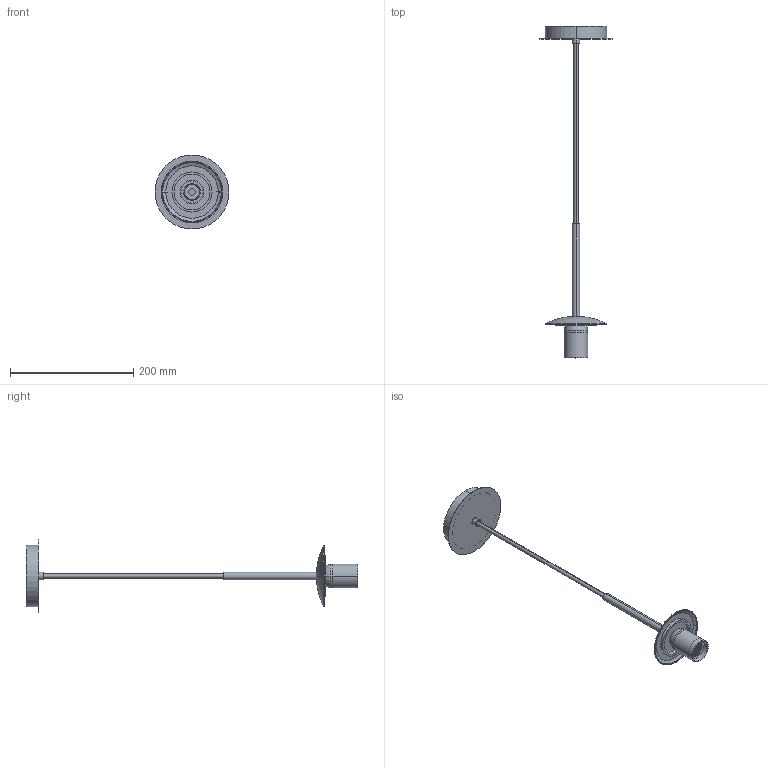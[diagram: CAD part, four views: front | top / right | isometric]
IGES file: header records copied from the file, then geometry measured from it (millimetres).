
Start section: SolidWorks IGES file using analytic representation for surfaces
Global section: file name: \\192.168.111.232\grupos\DISENYO\DESARROLLO DE PRODUCTO\PARMA-3946\PARMA-C3946080-COLGANTE 1 LUZ\PARMA-C3946080-COLGANTE 1 LUZ SIN TULIPA.IGS; native system: SolidWorks 2025; preprocessor: SolidWorks 2025; author: o.domenech; date: 260121.131538; units: millimetre
Bounding box: 120 x 538.45 x 120 mm (x, y, z)
Volume: 265794 mm3; surface area: 89735.7 mm2
Topology: 7 solids, 7 shells, 82 faces, 537 edges, 643 vertices
Faces by surface type: revolution 57, plane 21, bspline 4
